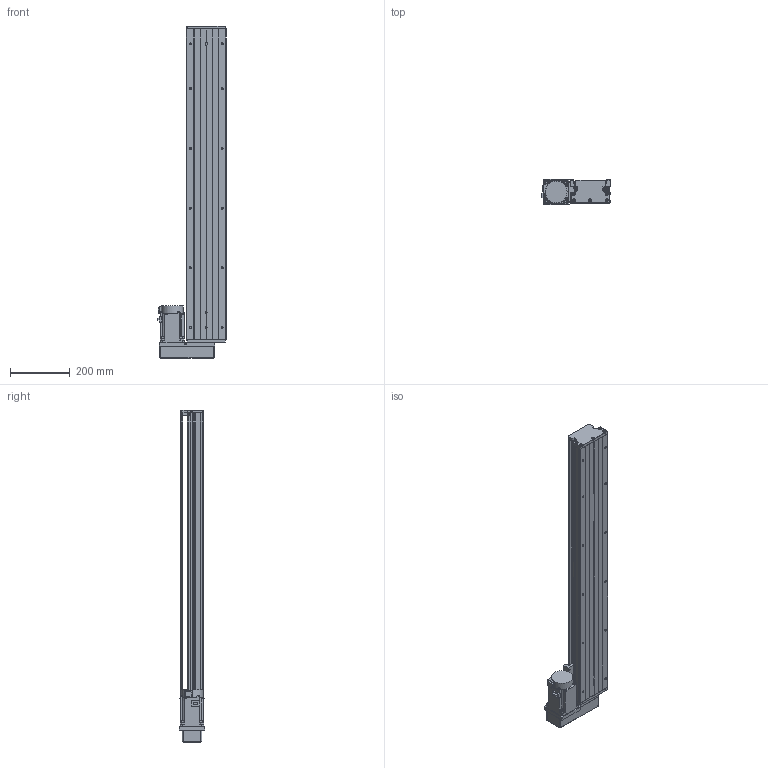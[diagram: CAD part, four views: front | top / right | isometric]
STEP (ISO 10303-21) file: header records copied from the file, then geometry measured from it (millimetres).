
FILE_DESCRIPTION (( 'STEP AP203' ), '1' );
FILE_NAME ('KTH130-900-BL-M75-C4.step', '2023-06-30T04:27:05', ( '微软用户' ), ( '微软中国' ), 'SwSTEP 2.0', 'SolidWorks 2020', '' );
FILE_SCHEMA (( 'CONFIG_CONTROL_DESIGN' ));
Length unit declared in the file: millimetre
Products named in the file (18): CTHA60-016; CTHA86-035; KTH130-005; GBT 70.1-M3℅5; KTH130-900-BL-M75-C4; GB1155-6X6; GBT77-2000 M3×3; GBT70.1 M5℅16; す晦芛蹟隊 M3℅5; GBT 70.2-M3¡Á5_M3¡Á6; GBT 70.3-M3℅8; GTH14-001_900; CTHA60-017; hg-kn73j_-s100; KTH130-002_KTH130-002; EE_SX911P_R; CTHA86-015-3_CTHA86-015-4; KTH130-004
Assembly tree (49 placements, depth 2):
  KTH130-900-BL-M75-C4
    GTH14-001_900
    KTH130-002_KTH130-002
    KTH130-004
    KTH130-005
    GB1155-6X6  x2
    GBT70.1 M5℅16  x10
    GBT 70.2-M3¡Á5_M3¡Á6  x4
    CTHA60-017  x3
    EE_SX911P_R  x3
    CTHA60-016  x2
    GBT 70.1-M3℅5  x6
    GBT77-2000 M3×3  x6
    す晦芛蹟隊 M3℅5  x2
    GBT 70.3-M3℅8  x4
    hg-kn73j_-s100
    CTHA86-015-3_CTHA86-015-4
    CTHA86-035
Bounding box: 230.3 x 87 x 1112 mm (x, y, z)
Volume: 6999996.2 mm3; surface area: 1004848.2 mm2
Topology: 52 solids, 52 shells, 2202 faces, 5340 edges, 3343 vertices
Faces by surface type: plane 1210, cylinder 638, cone 238, torus 100, sphere 16
Entity records: 40253 total; most frequent: CARTESIAN_POINT 6772, DIRECTION 6637, ORIENTED_EDGE 6184, EDGE_CURVE 3092, AXIS2_PLACEMENT_3D 2326, LINE 1985, VECTOR 1985, VERTEX_POINT 1977
